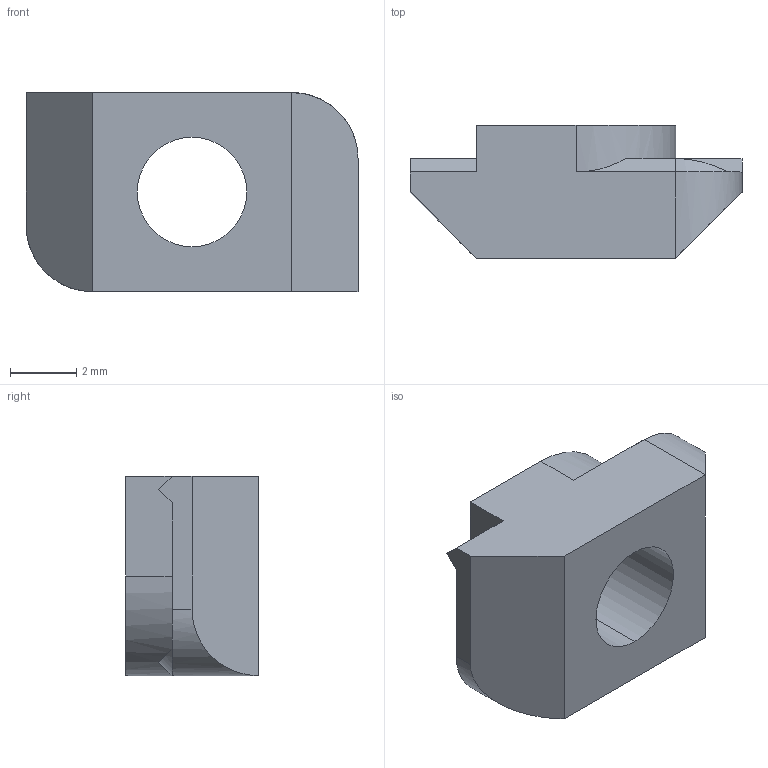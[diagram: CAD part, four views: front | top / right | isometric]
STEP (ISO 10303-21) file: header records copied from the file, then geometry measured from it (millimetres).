
FILE_DESCRIPTION (( 'STEP AP214' ), '1' );
FILE_NAME ('3.02.t.sp4.STEP', '2015-06-03T11:26:04', ( '' ), ( '' ), 'SwSTEP 2.0', 'SolidWorks 2015', '' );
FILE_SCHEMA (( 'AUTOMOTIVE_DESIGN' ));
Length unit declared in the file: millimetre
Products named in the file (1): 3.02.t.sp4
Bounding box: 10 x 4 x 6 mm (x, y, z)
Volume: 142.4 mm3; surface area: 233.3 mm2
Topology: 1 solids, 1 shells, 28 faces, 72 edges, 46 vertices
Faces by surface type: plane 20, cylinder 6, cone 2
Entity records: 906 total; most frequent: CARTESIAN_POINT 175, ORIENTED_EDGE 144, DIRECTION 134, EDGE_CURVE 72, VECTOR 52, LINE 52, VERTEX_POINT 46, AXIS2_PLACEMENT_3D 41
